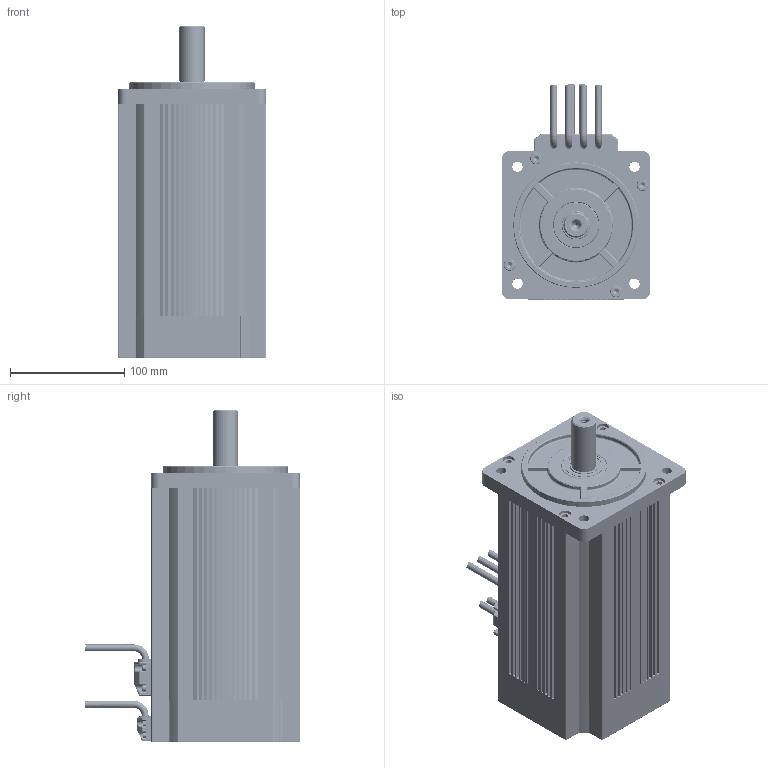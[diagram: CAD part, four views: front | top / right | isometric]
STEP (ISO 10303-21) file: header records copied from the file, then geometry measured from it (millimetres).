
FILE_DESCRIPTION (( 'STEP AP203' ), '1' );
FILE_NAME ('130L120-B-竘盄碟-4盄.STEP', '2022-08-18T01:27:43', ( '' ), ( '' ), 'SwSTEP 2.0', 'SolidWorks 2018', '' );
FILE_SCHEMA (( 'CONFIG_CONTROL_DESIGN' ));
Products named in the file (1): 130L120-B-竘盄碟-4盄
Bounding box: 130 x 188.82 x 291 mm (x, y, z)
Volume: 1101125.4 mm3; surface area: 449386.3 mm2
Topology: 32 solids, 32 shells, 4676 faces, 10245 edges, 5634 vertices
Faces by surface type: cone 1947, cylinder 1618, plane 694, bspline 180, torus 179, sphere 58
Entity records: 130711 total; most frequent: CARTESIAN_POINT 27907, DIRECTION 23401, ORIENTED_EDGE 20306, EDGE_CURVE 10153, AXIS2_PLACEMENT_3D 9232, VERTEX_POINT 5628, LINE 4937, VECTOR 4937
